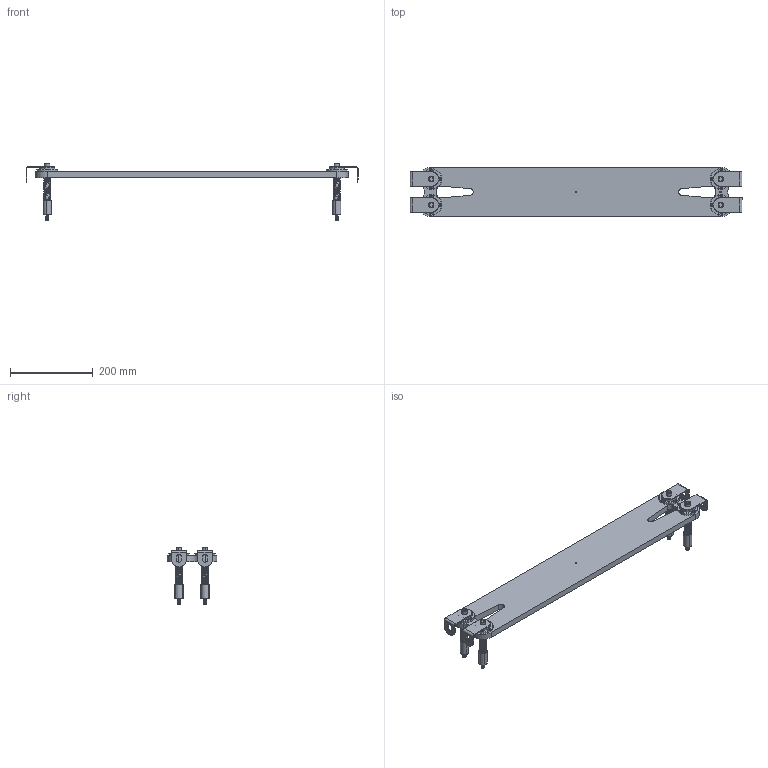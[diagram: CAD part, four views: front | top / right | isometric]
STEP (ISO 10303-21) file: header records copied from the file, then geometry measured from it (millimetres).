
FILE_DESCRIPTION (( 'STEP AP203' ), '1' );
FILE_NAME ('Floating attachment 700x63.STEP', '2020-04-07T04:56:10', ( '' ), ( '' ), 'SwSTEP 2.0', 'SolidWorks 2019', '' );
FILE_SCHEMA (( 'CONFIG_CONTROL_DESIGN' ));
Products named in the file (1): Floating attachment 700x63
Bounding box: 803 x 120 x 139 mm (x, y, z)
Surface area: 300018.3 mm2 (no closed solid volume)
Topology: 0 solids, 45 shells, 603 faces, 1637 edges, 1090 vertices
Faces by surface type: cylinder 294, plane 145, cone 80, bspline 44, torus 40
Entity records: 51338 total; most frequent: CARTESIAN_POINT 36364, DIRECTION 3200, ORIENTED_EDGE 2931, EDGE_CURVE 1637, AXIS2_PLACEMENT_3D 1286, VERTEX_POINT 1090, CIRCLE 726, EDGE_LOOP 721
